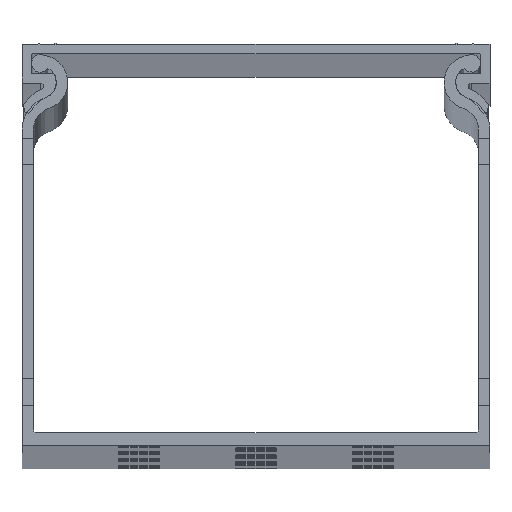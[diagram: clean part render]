
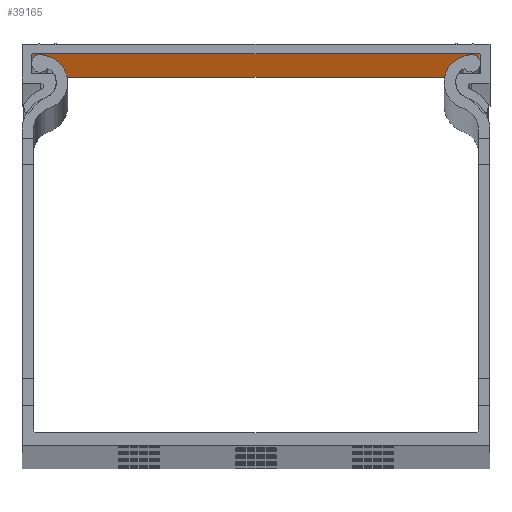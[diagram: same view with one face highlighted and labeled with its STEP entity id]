
A CAD part, top view. The second image highlights one B-rep face of the part: STEP entity #39165.
In plain terms, the highlighted planar face has unit normal (0, -1, 0).
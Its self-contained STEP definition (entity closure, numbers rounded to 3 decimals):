
#497 = VERTEX_POINT ( 'NONE', #10473 ) ;
#777 = CARTESIAN_POINT ( 'NONE',  ( 2568.407, 1295.656, 2000. ) ) ;
#1515 = VECTOR ( 'NONE', #32017, 1000. ) ;
#2542 = EDGE_CURVE ( 'NONE', #497, #44210, #7849, .T. ) ;
#3819 = CARTESIAN_POINT ( 'NONE',  ( 2535.007, 1295.656, 0. ) ) ;
#6956 = CARTESIAN_POINT ( 'NONE',  ( 2601.807, 1295.656, 2000. ) ) ;
#7361 = DIRECTION ( 'NONE',  ( 0., 0., -1. ) ) ;
#7849 = LINE ( 'NONE', #6956, #39433 ) ;
#8164 = CARTESIAN_POINT ( 'NONE',  ( 2601.807, 1295.656, 0. ) ) ;
#9253 = DIRECTION ( 'NONE',  ( 0., 0., 1. ) ) ;
#9273 = VECTOR ( 'NONE', #17294, 1000. ) ;
#9465 = ORIENTED_EDGE ( 'NONE', *, *, #32347, .T. ) ;
#10473 = CARTESIAN_POINT ( 'NONE',  ( 2601.807, 1295.656, 2000. ) ) ;
#13340 = EDGE_LOOP ( 'NONE', ( #9465, #54225, #18979, #29722 ) ) ;
#13507 = PLANE ( 'NONE',  #41245 ) ;
#17294 = DIRECTION ( 'NONE',  ( 1., 0., 0. ) ) ;
#18979 = ORIENTED_EDGE ( 'NONE', *, *, #46952, .F. ) ;
#21612 = LINE ( 'NONE', #27431, #51962 ) ;
#22330 = VERTEX_POINT ( 'NONE', #3819 ) ;
#27431 = CARTESIAN_POINT ( 'NONE',  ( 2535.007, 1295.656, 2000. ) ) ;
#29722 = ORIENTED_EDGE ( 'NONE', *, *, #48574, .T. ) ;
#31163 = LINE ( 'NONE', #36058, #1515 ) ;
#32017 = DIRECTION ( 'NONE',  ( 1., 0., 0. ) ) ;
#32347 = EDGE_CURVE ( 'NONE', #22330, #44210, #31163, .T. ) ;
#36058 = CARTESIAN_POINT ( 'NONE',  ( 2568.407, 1295.656, 0. ) ) ;
#37446 = FACE_OUTER_BOUND ( 'NONE', #13340, .T. ) ;
#37983 = DIRECTION ( 'NONE',  ( 0., 1., 0. ) ) ;
#38927 = VERTEX_POINT ( 'NONE', #53023 ) ;
#39165 = ADVANCED_FACE ( 'NONE', ( #37446 ), #13507, .F. ) ;
#39433 = VECTOR ( 'NONE', #44932, 1000. ) ;
#41245 = AXIS2_PLACEMENT_3D ( 'NONE', #777, #37983, #9253 ) ;
#44210 = VERTEX_POINT ( 'NONE', #8164 ) ;
#44932 = DIRECTION ( 'NONE',  ( 0., 0., -1. ) ) ;
#46952 = EDGE_CURVE ( 'NONE', #38927, #497, #52229, .T. ) ;
#47201 = CARTESIAN_POINT ( 'NONE',  ( 2568.407, 1295.656, 2000. ) ) ;
#48574 = EDGE_CURVE ( 'NONE', #38927, #22330, #21612, .T. ) ;
#51962 = VECTOR ( 'NONE', #7361, 1000. ) ;
#52229 = LINE ( 'NONE', #47201, #9273 ) ;
#53023 = CARTESIAN_POINT ( 'NONE',  ( 2535.007, 1295.656, 2000. ) ) ;
#54225 = ORIENTED_EDGE ( 'NONE', *, *, #2542, .F. ) ;
